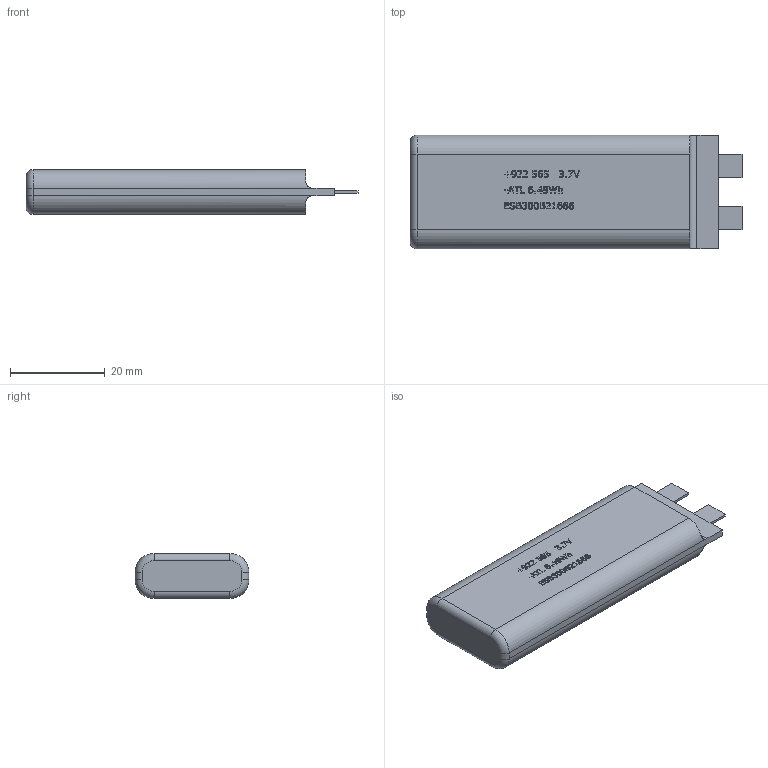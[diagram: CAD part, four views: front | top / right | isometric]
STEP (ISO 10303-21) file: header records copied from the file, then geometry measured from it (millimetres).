
FILE_DESCRIPTION(('FreeCAD Model'),'2;1');
FILE_NAME('Open CASCADE Shape Model','2023-05-06T18:44:57',('Author'),( ''),'Open CASCADE STEP processor 7.5','FreeCAD','Unknown');
FILE_SCHEMA(('AUTOMOTIVE_DESIGN { 1 0 10303 214 1 1 1 1 }'));
Length unit declared in the file: millimetre
Products named in the file (1): ACB ATL 922565 3.7V_6.49Wh
Bounding box: 70 x 24 x 9.5 mm (x, y, z)
Volume: 12907.8 mm3; surface area: 4465.7 mm2
Topology: 3 solids, 3 shells, 84 faces, 571 edges, 541 vertices
Faces by surface type: plane 70, cylinder 10, torus 4
Entity records: 9566 total; most frequent: CARTESIAN_POINT 4497, ORIENTED_EDGE 1142, EDGE_CURVE 571, VERTEX_POINT 541, DIRECTION 470, B_SPLINE_CURVE_WITH_KNOTS 291, VECTOR 260, LINE 260
